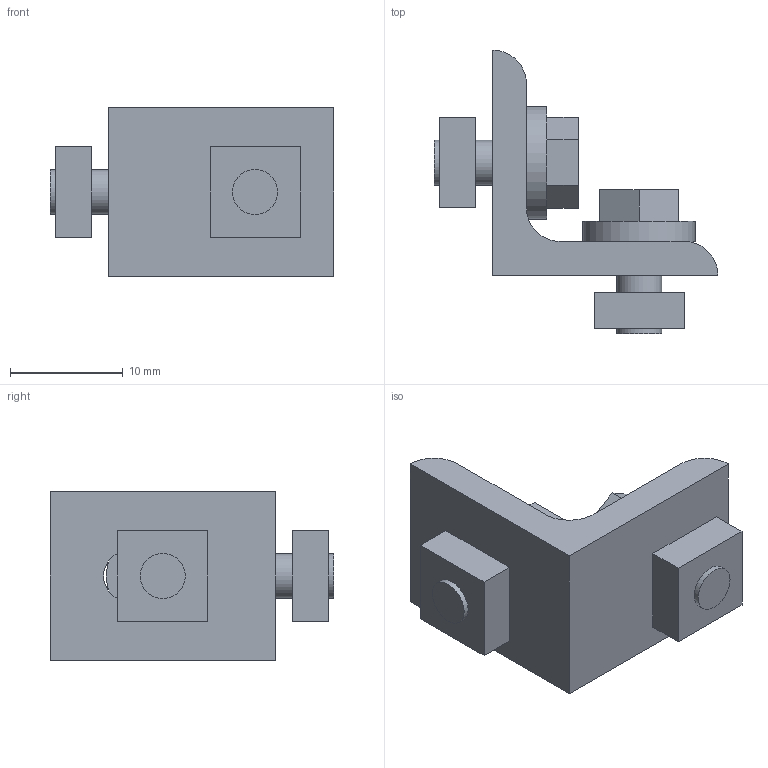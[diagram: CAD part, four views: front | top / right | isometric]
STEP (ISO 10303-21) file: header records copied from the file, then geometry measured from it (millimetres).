
FILE_DESCRIPTION((''),'2;1');
FILE_NAME('C:\Documents and Settings\古川典政\My Documents\Inventor\HP用\MasterData\BRACKET\M4\ABL-2015-4.stp','2008-07-30T13:54:59',('ÐT'),(''),'Autodesk Inventor 2008','Autodesk Inventor 2008','');
FILE_SCHEMA(('AUTOMOTIVE_DESIGN { 1 0 10303 214 1 1 1 1 }'));
Length unit declared in the file: millimetre
Products named in the file (6): ABL-2015-4; ABL-2015-41; ABL-2015-42; ABL-2015-43; ABL-2015-44; ABL-2015-45
Assembly tree (5 placements, depth 2):
  ABL-2015-4
    ABL-2015-41
    ABL-2015-42
    ABL-2015-43
    ABL-2015-44
    ABL-2015-45
Bounding box: 25.2 x 25.2 x 15 mm (x, y, z)
Volume: 2548.6 mm3; surface area: 2726.9 mm2
Topology: 5 solids, 5 shells, 57 faces, 128 edges, 87 vertices
Faces by surface type: plane 42, cylinder 12, bspline 3
Full cylindrical faces by diameter (mm): 4 x2, 4.3 x2, 10 x2
Entity records: 1741 total; most frequent: CARTESIAN_POINT 330, DIRECTION 272, ORIENTED_EDGE 228, EDGE_CURVE 114, AXIS2_PLACEMENT_3D 94, VECTOR 84, LINE 84, VERTEX_POINT 82
